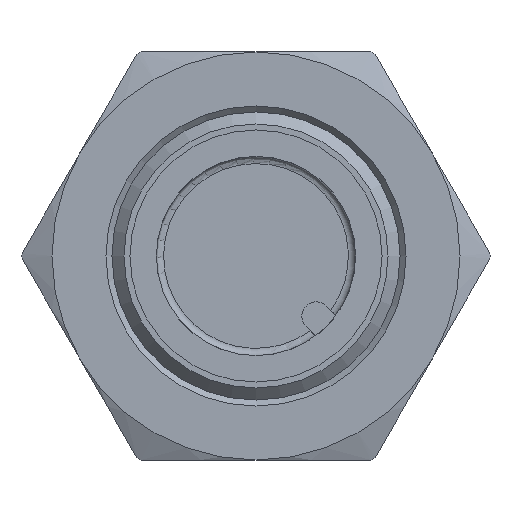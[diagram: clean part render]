
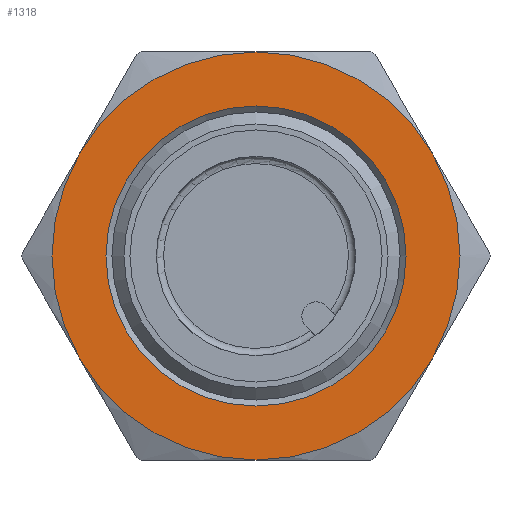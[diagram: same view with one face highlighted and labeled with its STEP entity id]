
A CAD part, front view. The second image highlights one B-rep face of the part: STEP entity #1318.
In plain terms, the highlighted planar face has unit normal (0, -1, 0).
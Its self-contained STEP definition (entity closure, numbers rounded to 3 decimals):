
#64 = FACE_OUTER_BOUND ( 'NONE', #2433, .T. ) ;
#113 = CARTESIAN_POINT ( 'NONE',  ( -37.783, 19.439, 34.672 ) ) ;
#119 = CIRCLE ( 'NONE', #1922, 8.5 ) ;
#155 = CARTESIAN_POINT ( 'NONE',  ( -30.422, 19.439, 23.422 ) ) ;
#223 = CARTESIAN_POINT ( 'NONE',  ( -30.422, 19.439, 30.422 ) ) ;
#240 = DIRECTION ( 'NONE',  ( 0., -1., 0. ) ) ;
#300 = CARTESIAN_POINT ( 'NONE',  ( -30.422, 19.439, 30.422 ) ) ;
#365 = CARTESIAN_POINT ( 'NONE',  ( -23.061, 19.439, 26.172 ) ) ;
#480 = VERTEX_POINT ( 'NONE', #1834 ) ;
#508 = VERTEX_POINT ( 'NONE', #365 ) ;
#510 = ORIENTED_EDGE ( 'NONE', *, *, #658, .F. ) ;
#629 = CARTESIAN_POINT ( 'NONE',  ( -30.422, 19.439, 30.422 ) ) ;
#658 = EDGE_CURVE ( 'NONE', #508, #984, #1910, .T. ) ;
#844 = ORIENTED_EDGE ( 'NONE', *, *, #1994, .F. ) ;
#882 = DIRECTION ( 'NONE',  ( 0., 1., 0. ) ) ;
#958 = DIRECTION ( 'NONE',  ( 0., 0., 1. ) ) ;
#984 = VERTEX_POINT ( 'NONE', #2417 ) ;
#1015 = ORIENTED_EDGE ( 'NONE', *, *, #1464, .F. ) ;
#1023 = DIRECTION ( 'NONE',  ( 0., 0., 1. ) ) ;
#1090 = EDGE_CURVE ( 'NONE', #2038, #508, #1229, .T. ) ;
#1149 = DIRECTION ( 'NONE',  ( 0., 0., 1. ) ) ;
#1183 = AXIS2_PLACEMENT_3D ( 'NONE', #629, #882, #2359 ) ;
#1198 = AXIS2_PLACEMENT_3D ( 'NONE', #223, #2138, #2148 ) ;
#1229 = CIRCLE ( 'NONE', #1183, 8.5 ) ;
#1280 = VERTEX_POINT ( 'NONE', #113 ) ;
#1318 = ADVANCED_FACE ( 'NONE', ( #64, #1337 ), #2276, .T. ) ;
#1320 = VERTEX_POINT ( 'NONE', #2741 ) ;
#1326 = AXIS2_PLACEMENT_3D ( 'NONE', #1722, #240, #1750 ) ;
#1337 = FACE_BOUND ( 'NONE', #1565, .T. ) ;
#1383 = EDGE_CURVE ( 'NONE', #2673, #2673, #1470, .T. ) ;
#1464 = EDGE_CURVE ( 'NONE', #480, #2038, #2480, .T. ) ;
#1470 = CIRCLE ( 'NONE', #1326, 6.25 ) ;
#1549 = DIRECTION ( 'NONE',  ( 0., 1., 0. ) ) ;
#1565 = EDGE_LOOP ( 'NONE', ( #2061 ) ) ;
#1601 = CIRCLE ( 'NONE', #1198, 8.5 ) ;
#1602 = DIRECTION ( 'NONE',  ( 0., 1., 0. ) ) ;
#1604 = CIRCLE ( 'NONE', #2065, 8.5 ) ;
#1684 = DIRECTION ( 'NONE',  ( 0., -1., 0. ) ) ;
#1703 = ORIENTED_EDGE ( 'NONE', *, *, #1090, .F. ) ;
#1722 = CARTESIAN_POINT ( 'NONE',  ( -30.422, 19.439, 30.422 ) ) ;
#1750 = DIRECTION ( 'NONE',  ( 1., 0., 0. ) ) ;
#1761 = AXIS2_PLACEMENT_3D ( 'NONE', #2667, #2632, #958 ) ;
#1818 = DIRECTION ( 'NONE',  ( 0., 0., 1. ) ) ;
#1834 = CARTESIAN_POINT ( 'NONE',  ( -30.422, 19.439, 38.922 ) ) ;
#1863 = CARTESIAN_POINT ( 'NONE',  ( -30.422, 19.439, 30.422 ) ) ;
#1910 = CIRCLE ( 'NONE', #2570, 8.5 ) ;
#1922 = AXIS2_PLACEMENT_3D ( 'NONE', #300, #1602, #1818 ) ;
#1994 = EDGE_CURVE ( 'NONE', #1320, #1280, #1604, .T. ) ;
#2027 = CARTESIAN_POINT ( 'NONE',  ( -24.172, 19.439, 30.422 ) ) ;
#2038 = VERTEX_POINT ( 'NONE', #2500 ) ;
#2061 = ORIENTED_EDGE ( 'NONE', *, *, #1383, .F. ) ;
#2065 = AXIS2_PLACEMENT_3D ( 'NONE', #1863, #2694, #1023 ) ;
#2138 = DIRECTION ( 'NONE',  ( 0., 1., 0. ) ) ;
#2148 = DIRECTION ( 'NONE',  ( 0., 0., 1. ) ) ;
#2201 = CARTESIAN_POINT ( 'NONE',  ( -30.422, 19.439, 30.422 ) ) ;
#2276 = PLANE ( 'NONE',  #2555 ) ;
#2297 = EDGE_CURVE ( 'NONE', #984, #1320, #1601, .T. ) ;
#2359 = DIRECTION ( 'NONE',  ( 0., 0., 1. ) ) ;
#2375 = EDGE_CURVE ( 'NONE', #1280, #480, #119, .T. ) ;
#2417 = CARTESIAN_POINT ( 'NONE',  ( -30.422, 19.439, 21.922 ) ) ;
#2433 = EDGE_LOOP ( 'NONE', ( #2726, #510, #1703, #1015, #2732, #844 ) ) ;
#2480 = CIRCLE ( 'NONE', #1761, 8.5 ) ;
#2500 = CARTESIAN_POINT ( 'NONE',  ( -23.061, 19.439, 34.672 ) ) ;
#2528 = DIRECTION ( 'NONE',  ( 1., 0., 0. ) ) ;
#2555 = AXIS2_PLACEMENT_3D ( 'NONE', #155, #1684, #2528 ) ;
#2570 = AXIS2_PLACEMENT_3D ( 'NONE', #2201, #1549, #1149 ) ;
#2632 = DIRECTION ( 'NONE',  ( 0., 1., 0. ) ) ;
#2667 = CARTESIAN_POINT ( 'NONE',  ( -30.422, 19.439, 30.422 ) ) ;
#2673 = VERTEX_POINT ( 'NONE', #2027 ) ;
#2694 = DIRECTION ( 'NONE',  ( 0., 1., 0. ) ) ;
#2726 = ORIENTED_EDGE ( 'NONE', *, *, #2297, .F. ) ;
#2732 = ORIENTED_EDGE ( 'NONE', *, *, #2375, .F. ) ;
#2741 = CARTESIAN_POINT ( 'NONE',  ( -37.783, 19.439, 26.172 ) ) ;
